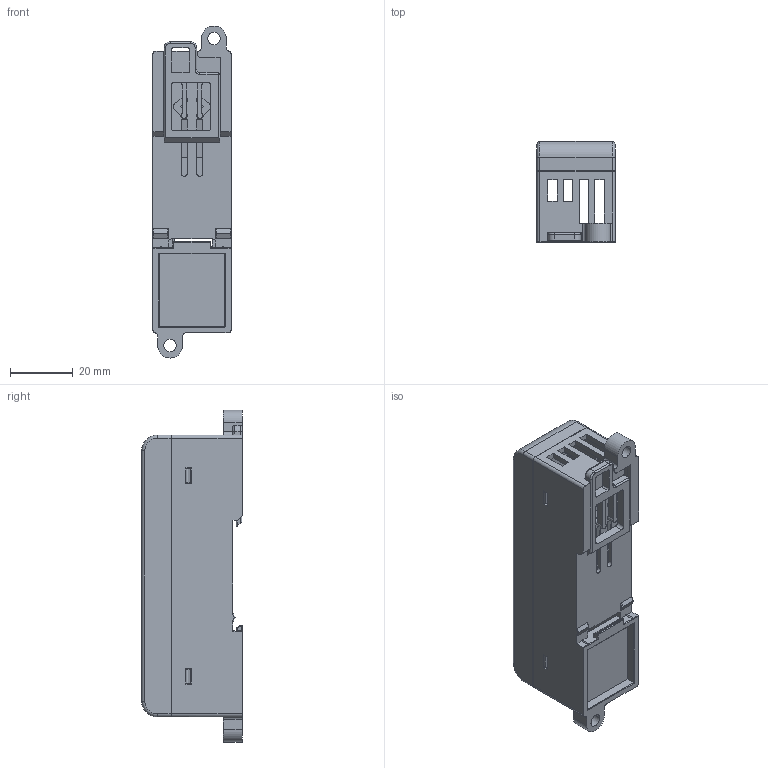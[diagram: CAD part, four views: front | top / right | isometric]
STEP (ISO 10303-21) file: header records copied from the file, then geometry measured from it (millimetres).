
FILE_DESCRIPTION((''),'2;1');
FILE_NAME('B1-CM_ASM','2021-06-09T',('Jacky Chang'),('ME Department of NTUST'),'PRO/ENGINEER BY PARAMETRIC TECHNOLOGY CORPORATION, 2014200','PRO/ENGINEER BY PARAMETRIC TECHNOLOGY CORPORATION, 2014200','');
FILE_SCHEMA(('CONFIG_CONTROL_DESIGN','GEOMETRIC_VALIDATION_PROPERTIES_MIM'));
Length unit declared in the file: millimetre
Products named in the file (5): B1-55E_UP_COVER; B1-CM_DOWN_COVER_NEW; DIN-RAIL-NEW; B1-CM_DOWN_COVER_NEW_ASM; B1-CM_ASM
Assembly tree (4 placements, depth 3):
  B1-CM_ASM
    B1-55E_UP_COVER
    B1-CM_DOWN_COVER_NEW_ASM
      B1-CM_DOWN_COVER_NEW
      DIN-RAIL-NEW
Bounding box: 25 x 32.1 x 106 mm (x, y, z)
Volume: 19876.5 mm3; surface area: 25174.2 mm2
Topology: 3 solids, 3 shells, 663 faces, 1897 edges, 1224 vertices
Faces by surface type: plane 479, cylinder 150, sphere 16, torus 14, bspline 4
Entity records: 27630 total; most frequent: CARTESIAN_POINT 4031, ORIENTED_EDGE 3794, DIRECTION 3502, PRESENTATION_STYLE_ASSIGNMENT 1900, STYLED_ITEM 1900, CURVE_STYLE 1897, EDGE_CURVE 1897, VECTOR 1558
